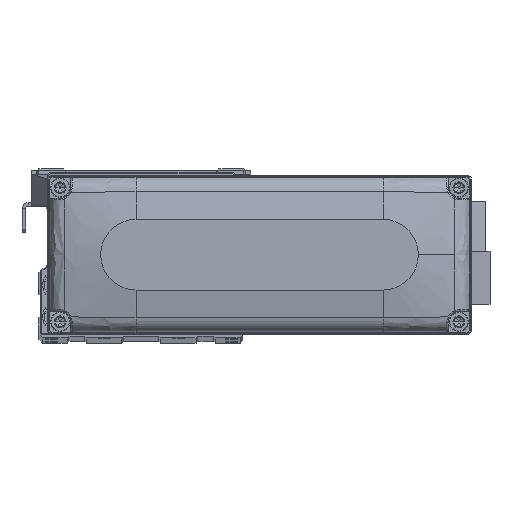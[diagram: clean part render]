
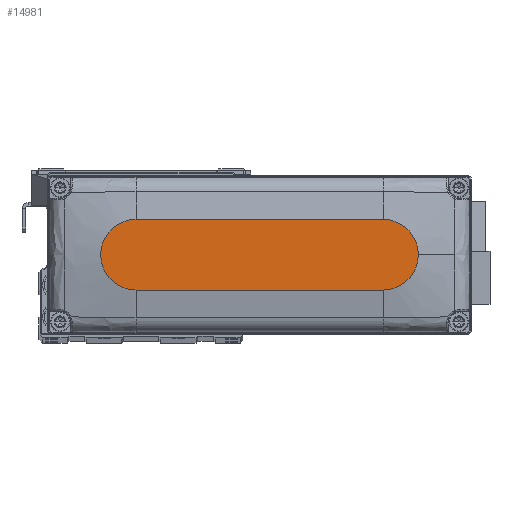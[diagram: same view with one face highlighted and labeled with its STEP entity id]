
A CAD part, top view. The second image highlights one B-rep face of the part: STEP entity #14981.
In plain terms, the highlighted planar face has unit normal (0, 0, 1).
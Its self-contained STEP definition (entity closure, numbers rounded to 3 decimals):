
#1478 = DIRECTION ( 'NONE',  ( 1., 0., 0. ) ) ;
#1800 = CARTESIAN_POINT ( 'NONE',  ( 45., 0., 28. ) ) ;
#2578 = LINE ( 'NONE', #16381, #42273 ) ;
#3113 = CARTESIAN_POINT ( 'NONE',  ( -35., -10., 28. ) ) ;
#4432 = EDGE_CURVE ( 'NONE', #31943, #8838, #37225, .T. ) ;
#4949 = DIRECTION ( 'NONE',  ( 0., 0., 1. ) ) ;
#5057 = ORIENTED_EDGE ( 'NONE', *, *, #4432, .T. ) ;
#5060 = CIRCLE ( 'NONE', #30333, 10. ) ;
#7119 = CARTESIAN_POINT ( 'NONE',  ( 35., 10., 28. ) ) ;
#8342 = FACE_OUTER_BOUND ( 'NONE', #21254, .T. ) ;
#8838 = VERTEX_POINT ( 'NONE', #3113 ) ;
#11499 = ORIENTED_EDGE ( 'NONE', *, *, #31313, .T. ) ;
#12670 = ORIENTED_EDGE ( 'NONE', *, *, #42898, .T. ) ;
#12883 = LINE ( 'NONE', #26671, #17331 ) ;
#14981 = ADVANCED_FACE ( 'NONE', ( #8342 ), #22150, .T. ) ;
#16381 = CARTESIAN_POINT ( 'NONE',  ( -35., 10., 28. ) ) ;
#17181 = CARTESIAN_POINT ( 'NONE',  ( 35., 0., 28. ) ) ;
#17207 = CIRCLE ( 'NONE', #42471, 10. ) ;
#17331 = VECTOR ( 'NONE', #40476, 1000. ) ;
#17673 = CARTESIAN_POINT ( 'NONE',  ( -35., 10., 28. ) ) ;
#17862 = CARTESIAN_POINT ( 'NONE',  ( 35., -10., 28. ) ) ;
#18580 = DIRECTION ( 'NONE',  ( 0., 0., 1. ) ) ;
#18684 = CARTESIAN_POINT ( 'NONE',  ( -35., 0., 28. ) ) ;
#18716 = AXIS2_PLACEMENT_3D ( 'NONE', #35939, #4949, #18743 ) ;
#18743 = DIRECTION ( 'NONE',  ( 1., 0., 0. ) ) ;
#20186 = EDGE_CURVE ( 'NONE', #40634, #25147, #17207, .T. ) ;
#20463 = VERTEX_POINT ( 'NONE', #17862 ) ;
#21254 = EDGE_LOOP ( 'NONE', ( #11499, #5057, #12670, #35797, #30950 ) ) ;
#22150 = PLANE ( 'NONE',  #18716 ) ;
#25147 = VERTEX_POINT ( 'NONE', #7119 ) ;
#26671 = CARTESIAN_POINT ( 'NONE',  ( -35., -10., 28. ) ) ;
#30170 = DIRECTION ( 'NONE',  ( -1., 0., 0. ) ) ;
#30333 = AXIS2_PLACEMENT_3D ( 'NONE', #17181, #30961, #33224 ) ;
#30950 = ORIENTED_EDGE ( 'NONE', *, *, #20186, .T. ) ;
#30961 = DIRECTION ( 'NONE',  ( 0., 0., 1. ) ) ;
#31313 = EDGE_CURVE ( 'NONE', #25147, #31943, #2578, .T. ) ;
#31943 = VERTEX_POINT ( 'NONE', #17673 ) ;
#32358 = DIRECTION ( 'NONE',  ( 1., 0., 0. ) ) ;
#32470 = DIRECTION ( 'NONE',  ( 0., 0., 1. ) ) ;
#33224 = DIRECTION ( 'NONE',  ( 1., 0., 0. ) ) ;
#35797 = ORIENTED_EDGE ( 'NONE', *, *, #43027, .T. ) ;
#35939 = CARTESIAN_POINT ( 'NONE',  ( 0., 0., 28. ) ) ;
#37225 = CIRCLE ( 'NONE', #43002, 10. ) ;
#39154 = CARTESIAN_POINT ( 'NONE',  ( 35., 0., 28. ) ) ;
#40476 = DIRECTION ( 'NONE',  ( 1., 0., 0. ) ) ;
#40634 = VERTEX_POINT ( 'NONE', #1800 ) ;
#42273 = VECTOR ( 'NONE', #30170, 1000. ) ;
#42471 = AXIS2_PLACEMENT_3D ( 'NONE', #39154, #18580, #32358 ) ;
#42898 = EDGE_CURVE ( 'NONE', #8838, #20463, #12883, .T. ) ;
#43002 = AXIS2_PLACEMENT_3D ( 'NONE', #18684, #32470, #1478 ) ;
#43027 = EDGE_CURVE ( 'NONE', #20463, #40634, #5060, .T. ) ;
